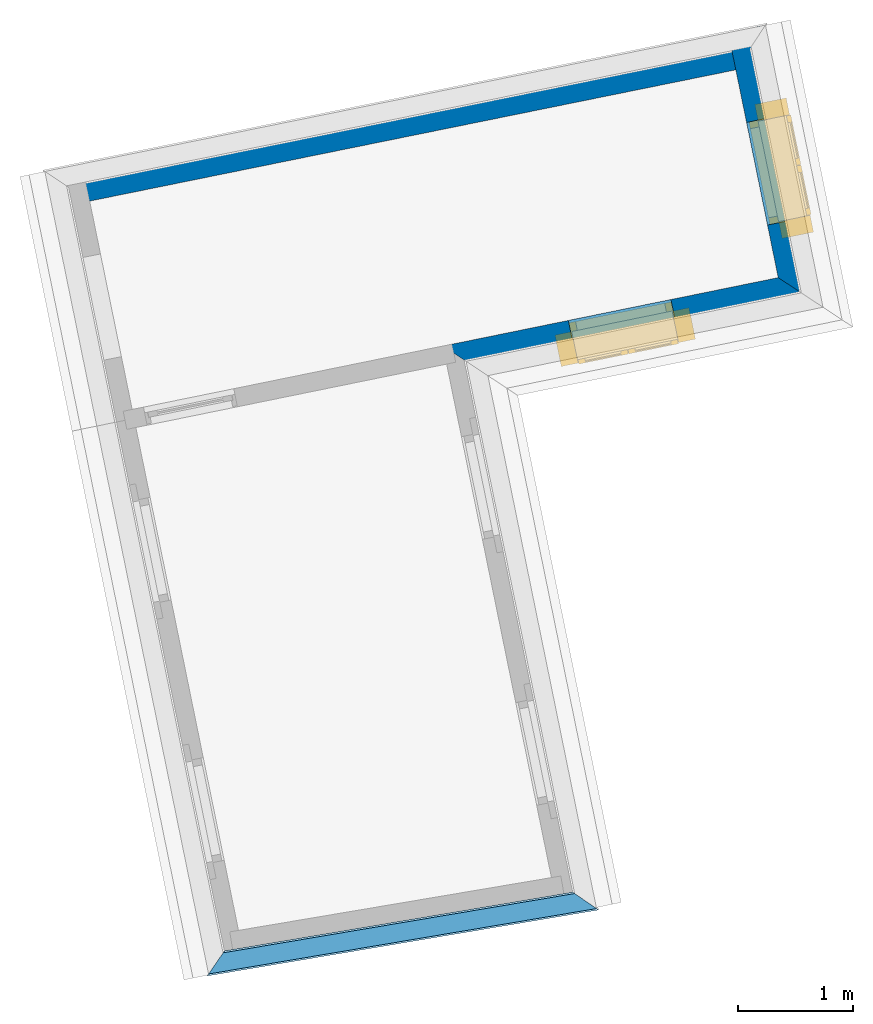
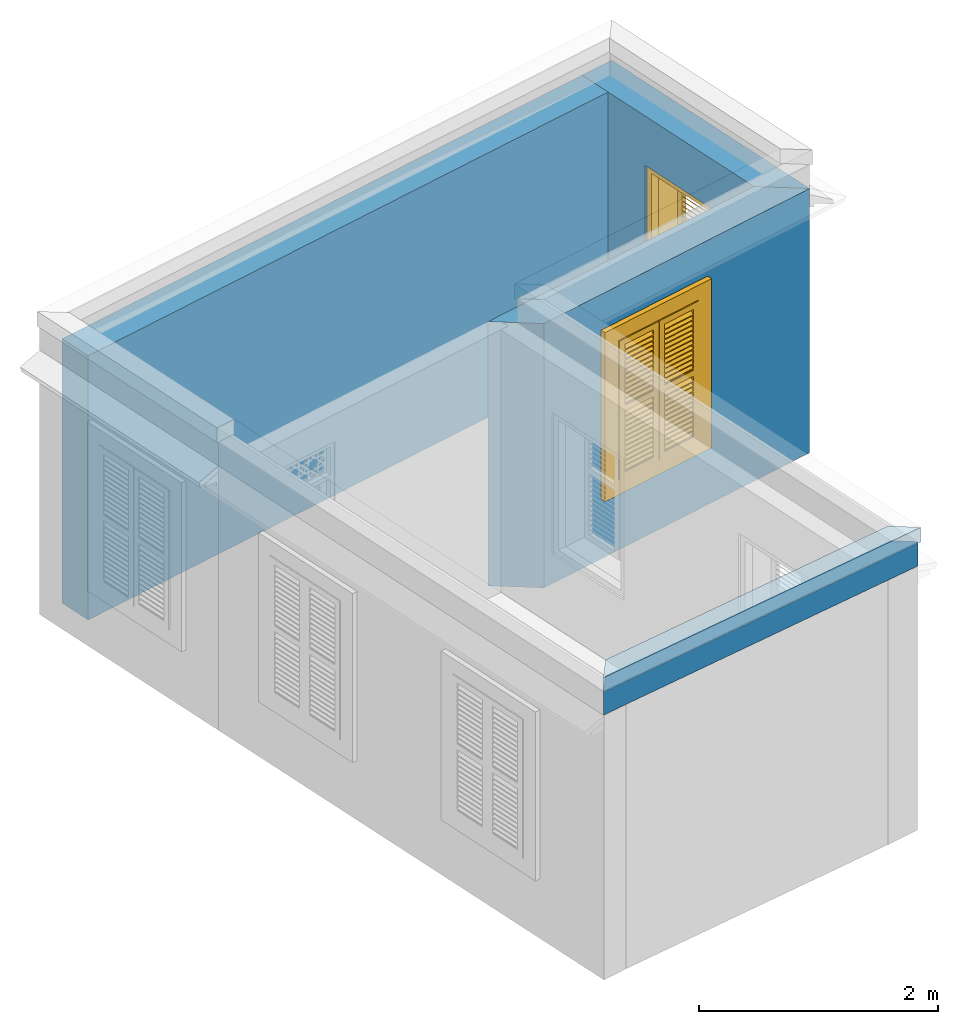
# One storey, part 4 of 5: 3 walls, 2 roofs, 2 windows, 2 openings.
"""IFC4 building model written with IfcOpenShell, lengths in metres."""

from ifc_helpers import new_model, si_unit, frame, origin, origin_with_axes, place, context, subcontext, project, spatial, polyline, outline, extrude, clip, halfspace, faceted_brep, source, transform, mapped, material, layer, layer_set, layer_usage, material_profile, profile_set, profile_usage, type_object, type_shapes, element, fill, save


model = new_model("IFC4")

# Units and contexts
model_context = context("Model", 3, world=origin_with_axes())
body_context = subcontext(model_context, "Body", "Model", "MODEL_VIEW")
ifc_project = project(units=[si_unit("PLANEANGLEUNIT", "RADIAN"), si_unit("MASSUNIT", "GRAM", prefix="KILO"), si_unit("FORCEUNIT", "NEWTON", prefix="KILO"), si_unit("LENGTHUNIT", "METRE"), si_unit("AREAUNIT", "SQUARE_METRE"), si_unit("VOLUMEUNIT", "CUBIC_METRE")], contexts=[model_context, model_context])

# Site, building, storey
site_placement = place(None, origin_with_axes())
site = spatial("IfcSite", under=ifc_project, at=site_placement, Name="Site plot-7", CompositionType="ELEMENT")
building_placement = place(None, origin_with_axes())
building = spatial("IfcBuilding", under=site, at=building_placement, Name="Building plot-7", CompositionType="ELEMENT")
storey_placement = place(None, frame((0.0, 0.0, 5.7), z_axis=(0.0, 0.0, 1.0), x_axis=(1.0, 0.0, 0.0)))
storey = spatial("IfcBuildingStorey", under=building, at=storey_placement, Name="plot-7 2", CompositionType="ELEMENT", Elevation=5.7)

# Wall, opening, window
ifc_material_1 = material(Name="Masonry")
ifc_layer_1 = layer(ifc_material_1, 0.33, ventilated=False)
ifc_layer_set_1 = layer_set([ifc_layer_1], Name="exterior_0.08_0.25")
ifc_layer_usage_1 = layer_usage(ifc_layer_set_1, "AXIS2", "POSITIVE", -0.25)
wall_type_1 = type_object("IfcWallType", Name="exterior_0.08_0.25", PredefinedType="SOLIDWALL", material=ifc_layer_set_1)
wall_1_placement = place(storey_placement, frame((-9.09509693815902, 9.59083448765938, 0.0), z_axis=(0.0, 0.0, 1.0), x_axis=(0.979807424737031, 0.199943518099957, 0.0)))
wall_1 = element("IfcWall", 1, at=wall_1_placement, inside=storey, type_object=wall_type_1, material=ifc_layer_usage_1, Name="exterior", context=body_context, shape_type="SweptSolid", body=[
    extrude(outline(polyline([(-0.0799999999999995, 0.0799999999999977), (0.25, -0.250000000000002), (3.22066143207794, -0.250000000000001), (2.89066143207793, 0.0799999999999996), (-0.0799999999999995, 0.0799999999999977)])), origin_with_axes(), (0.0, 0.0, 1.0), 2.7),
])
opening_1_placement = place(wall_1_placement, frame((1.03033071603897, 0.0, 0.75)))
opening_1 = element("IfcOpeningElement", 2, at=opening_1_placement, cuts=wall_1, Name="My Opening", ObjectType="Opening", context=body_context, shape_type="SweptSolid", body=[
    extrude(outline(polyline([(0.0, -0.269999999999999), (0.910000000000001, -0.27), (0.91, 1.1), (1.99840144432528e-15, 1.1), (0.0, -0.269999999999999)])), origin_with_axes(), (0.0, 0.0, 1.0), 1.445),
])
window_type = type_object("IfcWindowType", Name="shuttered_shorter", PartitioningType="DOUBLE_PANEL_HORIZONTAL", PredefinedType="NOTDEFINED")
shared_shape = source(origin(), body_context, "Body", "Brep", [
    faceted_brep([(0.393, 0.0, 0.622), (0.074, 0.0, 0.622), (0.074, 0.0, 0.632), (0.393, 0.0, 0.632), (0.074, -0.04, 0.592), (0.393, -0.04, 0.592), (0.393, -0.04, 0.582), (0.074, -0.04, 0.582), (0.517, 0.0, 0.682), (0.836, 0.0, 0.682), (0.836, 0.0, 0.672), (0.517, 0.0, 0.672), (0.517, -0.04, 0.642), (0.836, -0.04, 0.642), (0.836, -0.04, 0.632), (0.517, -0.04, 0.632), (0.517, 0.0, 0.632), (0.836, 0.0, 0.632), (0.836, 0.0, 0.622), (0.517, 0.0, 0.622), (0.517, -0.04, 0.592), (0.836, -0.04, 0.592), (0.836, -0.04, 0.582), (0.517, -0.04, 0.582), (0.517, 0.0, 0.232), (0.836, 0.0, 0.232), (0.836, 0.0, 0.222), (0.517, 0.0, 0.222), (0.517, -0.04, 0.192), (0.836, -0.04, 0.192), (0.836, -0.04, 0.182), (0.517, -0.04, 0.182), (0.517, 0.0, 0.532), (0.836, 0.0, 0.532), (0.836, 0.0, 0.522), (0.517, 0.0, 0.522), (0.517, -0.04, 0.492), (0.836, -0.04, 0.492), (0.836, -0.04, 0.482), (0.517, -0.04, 0.482), (0.517, 0.0, 0.482), (0.836, 0.0, 0.482), (0.836, 0.0, 0.472), (0.517, 0.0, 0.472), (0.517, -0.04, 0.442), (0.836, -0.04, 0.442), (0.836, -0.04, 0.432), (0.517, -0.04, 0.432), (0.517, 0.0, 0.582), (0.836, 0.0, 0.582), (0.836, 0.0, 0.572), (0.517, 0.0, 0.572), (0.517, -0.04, 0.542), (0.836, -0.04, 0.542), (0.836, -0.04, 0.532), (0.517, -0.04, 0.532), (0.517, 0.0, 0.182), (0.836, 0.0, 0.182), (0.836, 0.0, 0.172), (0.517, 0.0, 0.172), (0.517, -0.04, 0.142), (0.836, -0.04, 0.142), (0.836, -0.04, 0.132), (0.517, -0.04, 0.132), (0.517, 0.0, 0.382), (0.836, 0.0, 0.382), (0.836, 0.0, 0.372), (0.517, 0.0, 0.372), (0.517, -0.04, 0.342), (0.836, -0.04, 0.342), (0.836, -0.04, 0.332), (0.517, -0.04, 0.332), (0.517, 0.0, 0.432), (0.836, 0.0, 0.432), (0.836, 0.0, 0.422), (0.517, 0.0, 0.422), (0.517, -0.04, 0.392), (0.836, -0.04, 0.392), (0.836, -0.04, 0.382), (0.517, -0.04, 0.382), (0.517, 0.0, 0.132), (0.836, 0.0, 0.132), (0.836, 0.0, 0.122), (0.517, 0.0, 0.122), (0.517, -0.04, 0.092), (0.836, -0.04, 0.092), (0.836, -0.04, 0.082), (0.517, -0.04, 0.082), (0.517, 0.0, 0.282), (0.836, 0.0, 0.282), (0.836, 0.0, 0.272), (0.517, 0.0, 0.272), (0.517, -0.04, 0.242), (0.836, -0.04, 0.242), (0.836, -0.04, 0.232), (0.517, -0.04, 0.232), (0.517, 0.0, 0.332), (0.836, 0.0, 0.332), (0.836, 0.0, 0.322), (0.517, 0.0, 0.322), (0.517, -0.04, 0.292), (0.836, -0.04, 0.292), (0.836, -0.04, 0.282), (0.517, -0.04, 0.282), (0.517, 0.0, 1.362667), (0.836, 0.0, 1.362667), (0.836, 0.0, 1.352667), (0.517, 0.0, 1.352667), (0.517, -0.04, 1.322667), (0.836, -0.04, 1.322667), (0.836, -0.04, 1.312667), (0.517, -0.04, 1.312667), (0.517, 0.0, 1.312667), (0.836, 0.0, 1.312667), (0.836, 0.0, 1.302667), (0.517, 0.0, 1.302667), (0.517, -0.04, 1.272667), (0.836, -0.04, 1.272667), (0.836, -0.04, 1.262667), (0.517, -0.04, 1.262667), (0.517, 0.0, 0.912667), (0.836, 0.0, 0.912667), (0.836, 0.0, 0.902667), (0.517, 0.0, 0.902667), (0.517, -0.04, 0.872667), (0.836, -0.04, 0.872667), (0.836, -0.04, 0.862667), (0.517, -0.04, 0.862667), (0.517, 0.0, 1.212667), (0.836, 0.0, 1.212667), (0.836, 0.0, 1.202667), (0.517, 0.0, 1.202667), (0.517, -0.04, 1.172667), (0.836, -0.04, 1.172667), (0.836, -0.04, 1.162667), (0.517, -0.04, 1.162667), (0.517, 0.0, 1.162667), (0.836, 0.0, 1.162667), (0.836, 0.0, 1.152667), (0.517, 0.0, 1.152667), (0.517, -0.04, 1.122667), (0.836, -0.04, 1.122667), (0.836, -0.04, 1.112667), (0.517, -0.04, 1.112667), (0.517, 0.0, 1.262667), (0.836, 0.0, 1.262667), (0.836, 0.0, 1.252667), (0.517, 0.0, 1.252667), (0.517, -0.04, 1.222667), (0.836, -0.04, 1.222667), (0.836, -0.04, 1.212667), (0.517, -0.04, 1.212667), (0.517, 0.0, 0.862667), (0.836, 0.0, 0.862667), (0.836, 0.0, 0.852667), (0.517, 0.0, 0.852667), (0.517, -0.04, 0.822667), (0.836, -0.04, 0.822667), (0.836, -0.04, 0.812667), (0.517, -0.04, 0.812667), (0.517, 0.0, 1.062667), (0.836, 0.0, 1.062667), (0.836, 0.0, 1.052667), (0.517, 0.0, 1.052667), (0.517, -0.04, 1.022667), (0.836, -0.04, 1.022667), (0.836, -0.04, 1.012667), (0.517, -0.04, 1.012667), (0.517, 0.0, 1.112667), (0.836, 0.0, 1.112667), (0.836, 0.0, 1.102667), (0.517, 0.0, 1.102667), (0.517, -0.04, 1.072667), (0.836, -0.04, 1.072667), (0.836, -0.04, 1.062667), (0.517, -0.04, 1.062667), (0.517, 0.0, 0.812667), (0.836, 0.0, 0.812667), (0.836, 0.0, 0.802667), (0.517, 0.0, 0.802667), (0.517, -0.04, 0.772667), (0.836, -0.04, 0.772667), (0.836, -0.04, 0.762667), (0.517, -0.04, 0.762667), (0.517, 0.0, 0.962667), (0.836, 0.0, 0.962667), (0.836, 0.0, 0.952667), (0.517, 0.0, 0.952667), (0.517, -0.04, 0.922667), (0.836, -0.04, 0.922667), (0.836, -0.04, 0.912667), (0.517, -0.04, 0.912667), (0.517, 0.0, 1.012667), (0.836, 0.0, 1.012667), (0.836, 0.0, 1.002667), (0.517, 0.0, 1.002667), (0.517, -0.04, 0.972667), (0.836, -0.04, 0.972667), (0.836, -0.04, 0.962667), (0.517, -0.04, 0.962667), (0.074, 0.0, 0.682), (0.393, 0.0, 0.682), (0.393, 0.0, 0.672), (0.074, 0.0, 0.672), (0.074, -0.04, 0.642), (0.393, -0.04, 0.642), (0.393, -0.04, 0.632), (0.074, -0.04, 0.632), (0.074, 0.0, 0.232), (0.393, 0.0, 0.232), (0.393, 0.0, 0.222), (0.074, 0.0, 0.222), (0.074, -0.04, 0.192), (0.393, -0.04, 0.192), (0.393, -0.04, 0.182), (0.074, -0.04, 0.182), (0.074, 0.0, 0.532), (0.393, 0.0, 0.532), (0.393, 0.0, 0.522), (0.074, 0.0, 0.522), (0.074, -0.04, 0.492), (0.393, -0.04, 0.492), (0.393, -0.04, 0.482), (0.074, -0.04, 0.482), (0.074, 0.0, 0.482), (0.393, 0.0, 0.482), (0.393, 0.0, 0.472), (0.074, 0.0, 0.472), (0.074, -0.04, 0.442), (0.393, -0.04, 0.442), (0.393, -0.04, 0.432), (0.074, -0.04, 0.432), (0.074, 0.0, 0.582), (0.393, 0.0, 0.582), (0.393, 0.0, 0.572), (0.074, 0.0, 0.572), (0.074, -0.04, 0.542), (0.393, -0.04, 0.542), (0.393, -0.04, 0.532), (0.074, -0.04, 0.532), (0.074, 0.0, 0.182), (0.393, 0.0, 0.182), (0.393, 0.0, 0.172), (0.074, 0.0, 0.172), (0.074, -0.04, 0.142), (0.393, -0.04, 0.142), (0.393, -0.04, 0.132), (0.074, -0.04, 0.132), (0.074, 0.0, 0.382), (0.393, 0.0, 0.382), (0.393, 0.0, 0.372), (0.074, 0.0, 0.372), (0.074, -0.04, 0.342), (0.393, -0.04, 0.342), (0.393, -0.04, 0.332), (0.074, -0.04, 0.332), (0.074, 0.0, 0.432), (0.393, 0.0, 0.432), (0.393, 0.0, 0.422), (0.074, 0.0, 0.422), (0.074, -0.04, 0.392), (0.393, -0.04, 0.392), (0.393, -0.04, 0.382), (0.074, -0.04, 0.382), (0.074, 0.0, 0.132), (0.393, 0.0, 0.132), (0.393, 0.0, 0.122), (0.074, 0.0, 0.122), (0.074, -0.04, 0.092), (0.393, -0.04, 0.092), (0.393, -0.04, 0.082), (0.074, -0.04, 0.082), (0.074, 0.0, 0.282), (0.393, 0.0, 0.282), (0.393, 0.0, 0.272), (0.074, 0.0, 0.272), (0.074, -0.04, 0.242), (0.393, -0.04, 0.242), (0.393, -0.04, 0.232), (0.074, -0.04, 0.232), (0.074, 0.0, 0.332), (0.393, 0.0, 0.332), (0.393, 0.0, 0.322), (0.074, 0.0, 0.322), (0.074, -0.04, 0.292), (0.393, -0.04, 0.292), (0.393, -0.04, 0.282), (0.074, -0.04, 0.282), (0.074, 0.0, 1.362667), (0.393, 0.0, 1.362667), (0.393, 0.0, 1.352667), (0.074, 0.0, 1.352667), (0.074, -0.04, 1.322667), (0.393, -0.04, 1.322667), (0.393, -0.04, 1.312667), (0.074, -0.04, 1.312667), (0.074, 0.0, 1.312667), (0.393, 0.0, 1.312667), (0.393, 0.0, 1.302667), (0.074, 0.0, 1.302667), (0.074, -0.04, 1.272667), (0.393, -0.04, 1.272667), (0.393, -0.04, 1.262667), (0.074, -0.04, 1.262667), (0.074, 0.0, 0.912667), (0.393, 0.0, 0.912667), (0.393, 0.0, 0.902667), (0.074, 0.0, 0.902667), (0.074, -0.04, 0.872667), (0.393, -0.04, 0.872667), (0.393, -0.04, 0.862667), (0.074, -0.04, 0.862667), (0.074, 0.0, 1.212667), (0.393, 0.0, 1.212667), (0.393, 0.0, 1.202667), (0.074, 0.0, 1.202667), (0.074, -0.04, 1.172667), (0.393, -0.04, 1.172667), (0.393, -0.04, 1.162667), (0.074, -0.04, 1.162667), (0.074, 0.0, 1.162667), (0.393, 0.0, 1.162667), (0.393, 0.0, 1.152667), (0.074, 0.0, 1.152667), (0.074, -0.04, 1.122667), (0.393, -0.04, 1.122667), (0.393, -0.04, 1.112667), (0.074, -0.04, 1.112667), (0.074, 0.0, 1.262667), (0.393, 0.0, 1.262667), (0.393, 0.0, 1.252667), (0.074, 0.0, 1.252667), (0.074, -0.04, 1.222667), (0.393, -0.04, 1.222667), (0.393, -0.04, 1.212667), (0.074, -0.04, 1.212667), (0.074, 0.0, 0.862667), (0.393, 0.0, 0.862667), (0.393, 0.0, 0.852667), (0.074, 0.0, 0.852667), (0.074, -0.04, 0.822667), (0.393, -0.04, 0.822667), (0.393, -0.04, 0.812667), (0.074, -0.04, 0.812667), (0.074, 0.0, 1.062667), (0.393, 0.0, 1.062667), (0.393, 0.0, 1.052667), (0.074, 0.0, 1.052667), (0.074, -0.04, 1.022667), (0.393, -0.04, 1.022667), (0.393, -0.04, 1.012667), (0.074, -0.04, 1.012667), (0.074, 0.0, 1.112667), (0.393, 0.0, 1.112667), (0.393, 0.0, 1.102667), (0.074, 0.0, 1.102667), (0.074, -0.04, 1.072667), (0.393, -0.04, 1.072667), (0.393, -0.04, 1.062667), (0.074, -0.04, 1.062667), (0.074, 0.0, 0.812667), (0.393, 0.0, 0.812667), (0.393, 0.0, 0.802667), (0.074, 0.0, 0.802667), (0.074, -0.04, 0.772667), (0.393, -0.04, 0.772667), (0.393, -0.04, 0.762667), (0.074, -0.04, 0.762667), (0.074, 0.0, 0.962667), (0.393, 0.0, 0.962667), (0.393, 0.0, 0.952667), (0.074, 0.0, 0.952667), (0.074, -0.04, 0.922667), (0.393, -0.04, 0.922667), (0.393, -0.04, 0.912667), (0.074, -0.04, 0.912667), (0.074, 0.0, 1.012667), (0.393, 0.0, 1.012667), (0.393, 0.0, 1.002667), (0.074, 0.0, 1.002667), (0.074, -0.04, 0.972667), (0.393, -0.04, 0.972667), (0.393, -0.04, 0.962667), (0.074, -0.04, 0.962667), (0.517, -0.04, 0.072), (0.457, -0.04, 0.012), (0.896, -0.04, 0.012), (0.836, -0.04, 0.072), (0.457, -0.04, 0.692667), (0.517, -0.04, 0.692667), (0.457, 0.0, 0.012), (0.896, 0.0, 0.012), (0.836, -0.04, 0.692667), (0.896, -0.04, 0.692667), (0.836, 0.0, 0.072), (0.517, 0.0, 0.072), (0.457, 0.0, 0.692667), (0.517, 0.0, 0.692667), (0.517, -0.04, 0.752666), (0.457, -0.04, 0.752666), (0.896, 0.0, 0.692667), (0.836, 0.0, 0.692667), (0.836, -0.04, 0.752666), (0.896, -0.04, 0.752666), (0.457, 0.0, 0.752666), (0.457, -0.04, 1.433333), (0.517, -0.04, 1.373333), (0.896, 0.0, 0.752666), (0.836, -0.04, 1.373333), (0.896, -0.04, 1.433333), (0.457, 0.0, 1.433333), (0.517, 0.0, 0.752666), (0.836, 0.0, 0.752666), (0.517, 0.0, 1.373333), (0.896, 0.0, 1.433333), (0.836, 0.0, 1.373333), (0.074, -0.04, 0.072), (0.014, -0.04, 0.012), (0.453, -0.04, 0.012), (0.393, -0.04, 0.072), (0.014, -0.04, 0.692667), (0.074, -0.04, 0.692667), (0.014, 0.0, 0.012), (0.453, 0.0, 0.012), (0.393, -0.04, 0.692667), (0.453, -0.04, 0.692667), (0.393, 0.0, 0.072), (0.074, 0.0, 0.072), (0.014, 0.0, 0.692667), (0.074, 0.0, 0.692667), (0.074, -0.04, 0.752666), (0.014, -0.04, 0.752666), (0.453, 0.0, 0.692667), (0.393, 0.0, 0.692667), (0.393, -0.04, 0.752666), (0.453, -0.04, 0.752666), (0.014, 0.0, 0.752666), (0.014, -0.04, 1.433333), (0.074, -0.04, 1.373333), (0.453, 0.0, 0.752666), (0.393, -0.04, 1.373333), (0.453, -0.04, 1.433333), (0.014, 0.0, 1.433333), (0.074, 0.0, 0.752666), (0.393, 0.0, 0.752666), (0.074, 0.0, 1.373333), (0.453, 0.0, 1.433333), (0.393, 0.0, 1.373333), (0.0, 0.33, 1.445), (0.91, 0.33, 1.445), (0.85, 0.33, 1.385), (0.06, 0.33, 1.385), (0.91, 0.25, 1.445), (0.0, 0.25, 1.445), (0.91, 0.25, 1.445), (0.85, 0.33, 0.06), (0.91, 0.33, 0.0), (0.85, 0.25, 1.385), (0.06, 0.25, 1.385), (0.0, 0.33, 0.0), (0.06, 0.33, 0.06), (0.0, 0.25, 0.0), (0.91, 0.25, 0.0), (0.85, 0.25, 0.06), (0.06, 0.25, 0.06), (1.05, 0.25, 1.585), (-0.14, 0.25, 1.585), (-0.14, -0.03, 1.585), (1.05, -0.03, 1.585), (0.9, -0.03, 1.435), (0.01, -0.03, 1.435), (0.01, 0.25, 1.435), (0.9, 0.25, 1.435), (0.9, 0.25, 0.01), (0.9, -0.03, 0.01), (1.05, -0.03, -0.14), (1.05, 0.25, -0.14), (0.01, -0.03, 0.01), (0.01, 0.25, 0.01), (-0.14, -0.03, -0.14), (-0.14, 0.25, -0.14)], [[[0, 1, 2, 3]], [[4, 5, 3, 2]], [[5, 6, 0, 3]], [[1, 0, 6, 7]], [[2, 1, 7, 4]], [[5, 4, 7, 6]], [[8, 9, 10, 11]], [[12, 13, 9, 8]], [[13, 14, 10, 9]], [[14, 15, 11, 10]], [[15, 12, 8, 11]], [[13, 12, 15, 14]], [[16, 17, 18, 19]], [[20, 21, 17, 16]], [[21, 22, 18, 17]], [[22, 23, 19, 18]], [[23, 20, 16, 19]], [[21, 20, 23, 22]], [[24, 25, 26, 27]], [[28, 29, 25, 24]], [[29, 30, 26, 25]], [[30, 31, 27, 26]], [[31, 28, 24, 27]], [[29, 28, 31, 30]], [[32, 33, 34, 35]], [[36, 37, 33, 32]], [[37, 38, 34, 33]], [[38, 39, 35, 34]], [[39, 36, 32, 35]], [[37, 36, 39, 38]], [[40, 41, 42, 43]], [[44, 45, 41, 40]], [[45, 46, 42, 41]], [[46, 47, 43, 42]], [[47, 44, 40, 43]], [[45, 44, 47, 46]], [[48, 49, 50, 51]], [[52, 53, 49, 48]], [[53, 54, 50, 49]], [[54, 55, 51, 50]], [[55, 52, 48, 51]], [[53, 52, 55, 54]], [[56, 57, 58, 59]], [[60, 61, 57, 56]], [[61, 62, 58, 57]], [[62, 63, 59, 58]], [[63, 60, 56, 59]], [[61, 60, 63, 62]], [[64, 65, 66, 67]], [[68, 69, 65, 64]], [[69, 70, 66, 65]], [[70, 71, 67, 66]], [[71, 68, 64, 67]], [[69, 68, 71, 70]], [[72, 73, 74, 75]], [[76, 77, 73, 72]], [[77, 78, 74, 73]], [[78, 79, 75, 74]], [[79, 76, 72, 75]], [[77, 76, 79, 78]], [[80, 81, 82, 83]], [[84, 85, 81, 80]], [[85, 86, 82, 81]], [[86, 87, 83, 82]], [[87, 84, 80, 83]], [[85, 84, 87, 86]], [[88, 89, 90, 91]], [[92, 93, 89, 88]], [[93, 94, 90, 89]], [[94, 95, 91, 90]], [[95, 92, 88, 91]], [[93, 92, 95, 94]], [[96, 97, 98, 99]], [[100, 101, 97, 96]], [[101, 102, 98, 97]], [[102, 103, 99, 98]], [[103, 100, 96, 99]], [[101, 100, 103, 102]], [[104, 105, 106, 107]], [[108, 109, 105, 104]], [[109, 110, 106, 105]], [[110, 111, 107, 106]], [[111, 108, 104, 107]], [[109, 108, 111, 110]], [[112, 113, 114, 115]], [[116, 117, 113, 112]], [[117, 118, 114, 113]], [[118, 119, 115, 114]], [[119, 116, 112, 115]], [[117, 116, 119, 118]], [[120, 121, 122, 123]], [[124, 125, 121, 120]], [[125, 126, 122, 121]], [[126, 127, 123, 122]], [[127, 124, 120, 123]], [[125, 124, 127, 126]], [[128, 129, 130, 131]], [[132, 133, 129, 128]], [[133, 134, 130, 129]], [[134, 135, 131, 130]], [[135, 132, 128, 131]], [[133, 132, 135, 134]], [[136, 137, 138, 139]], [[140, 141, 137, 136]], [[141, 142, 138, 137]], [[142, 143, 139, 138]], [[139, 143, 140, 136]], [[141, 140, 143, 142]], [[144, 145, 146, 147]], [[148, 149, 145, 144]], [[149, 150, 146, 145]], [[150, 151, 147, 146]], [[151, 148, 144, 147]], [[149, 148, 151, 150]], [[152, 153, 154, 155]], [[156, 157, 153, 152]], [[157, 158, 154, 153]], [[158, 159, 155, 154]], [[159, 156, 152, 155]], [[157, 156, 159, 158]], [[160, 161, 162, 163]], [[164, 165, 161, 160]], [[165, 166, 162, 161]], [[166, 167, 163, 162]], [[167, 164, 160, 163]], [[165, 164, 167, 166]], [[168, 169, 170, 171]], [[172, 173, 169, 168]], [[173, 174, 170, 169]], [[174, 175, 171, 170]], [[175, 172, 168, 171]], [[173, 172, 175, 174]], [[176, 177, 178, 179]], [[180, 181, 177, 176]], [[181, 182, 178, 177]], [[182, 183, 179, 178]], [[183, 180, 176, 179]], [[181, 180, 183, 182]], [[184, 185, 186, 187]], [[188, 189, 185, 184]], [[189, 190, 186, 185]], [[190, 191, 187, 186]], [[191, 188, 184, 187]], [[189, 188, 191, 190]], [[192, 193, 194, 195]], [[196, 197, 193, 192]], [[197, 198, 194, 193]], [[198, 199, 195, 194]], [[199, 196, 192, 195]], [[197, 196, 199, 198]], [[200, 201, 202, 203]], [[204, 205, 201, 200]], [[205, 206, 202, 201]], [[206, 207, 203, 202]], [[207, 204, 200, 203]], [[205, 204, 207, 206]], [[208, 209, 210, 211]], [[212, 213, 209, 208]], [[213, 214, 210, 209]], [[214, 215, 211, 210]], [[215, 212, 208, 211]], [[213, 212, 215, 214]], [[216, 217, 218, 219]], [[220, 221, 217, 216]], [[221, 222, 218, 217]], [[222, 223, 219, 218]], [[223, 220, 216, 219]], [[221, 220, 223, 222]], [[224, 225, 226, 227]], [[228, 229, 225, 224]], [[229, 230, 226, 225]], [[230, 231, 227, 226]], [[231, 228, 224, 227]], [[229, 228, 231, 230]], [[232, 233, 234, 235]], [[236, 237, 233, 232]], [[237, 238, 234, 233]], [[238, 239, 235, 234]], [[239, 236, 232, 235]], [[237, 236, 239, 238]], [[240, 241, 242, 243]], [[244, 245, 241, 240]], [[245, 246, 242, 241]], [[246, 247, 243, 242]], [[247, 244, 240, 243]], [[245, 244, 247, 246]], [[248, 249, 250, 251]], [[252, 253, 249, 248]], [[253, 254, 250, 249]], [[254, 255, 251, 250]], [[255, 252, 248, 251]], [[253, 252, 255, 254]], [[256, 257, 258, 259]], [[260, 261, 257, 256]], [[261, 262, 258, 257]], [[262, 263, 259, 258]], [[263, 260, 256, 259]], [[261, 260, 263, 262]], [[264, 265, 266, 267]], [[268, 269, 265, 264]], [[269, 270, 266, 265]], [[270, 271, 267, 266]], [[271, 268, 264, 267]], [[269, 268, 271, 270]], [[272, 273, 274, 275]], [[276, 277, 273, 272]], [[277, 278, 274, 273]], [[278, 279, 275, 274]], [[279, 276, 272, 275]], [[277, 276, 279, 278]], [[280, 281, 282, 283]], [[284, 285, 281, 280]], [[285, 286, 282, 281]], [[286, 287, 283, 282]], [[287, 284, 280, 283]], [[285, 284, 287, 286]], [[288, 289, 290, 291]], [[292, 293, 289, 288]], [[293, 294, 290, 289]], [[294, 295, 291, 290]], [[295, 292, 288, 291]], [[293, 292, 295, 294]], [[296, 297, 298, 299]], [[300, 301, 297, 296]], [[301, 302, 298, 297]], [[302, 303, 299, 298]], [[303, 300, 296, 299]], [[301, 300, 303, 302]], [[304, 305, 306, 307]], [[308, 309, 305, 304]], [[309, 310, 306, 305]], [[310, 311, 307, 306]], [[311, 308, 304, 307]], [[309, 308, 311, 310]], [[312, 313, 314, 315]], [[316, 317, 313, 312]], [[317, 318, 314, 313]], [[318, 319, 315, 314]], [[319, 316, 312, 315]], [[317, 316, 319, 318]], [[320, 321, 322, 323]], [[324, 325, 321, 320]], [[325, 326, 322, 321]], [[326, 327, 323, 322]], [[327, 324, 320, 323]], [[325, 324, 327, 326]], [[328, 329, 330, 331]], [[332, 333, 329, 328]], [[333, 334, 330, 329]], [[334, 335, 331, 330]], [[335, 332, 328, 331]], [[333, 332, 335, 334]], [[336, 337, 338, 339]], [[340, 341, 337, 336]], [[341, 342, 338, 337]], [[342, 343, 339, 338]], [[343, 340, 336, 339]], [[341, 340, 343, 342]], [[344, 345, 346, 347]], [[348, 349, 345, 344]], [[349, 350, 346, 345]], [[350, 351, 347, 346]], [[351, 348, 344, 347]], [[349, 348, 351, 350]], [[352, 353, 354, 355]], [[356, 357, 353, 352]], [[357, 358, 354, 353]], [[358, 359, 355, 354]], [[359, 356, 352, 355]], [[357, 356, 359, 358]], [[360, 361, 362, 363]], [[364, 365, 361, 360]], [[365, 366, 362, 361]], [[366, 367, 363, 362]], [[367, 364, 360, 363]], [[365, 364, 367, 366]], [[368, 369, 370, 371]], [[372, 373, 369, 368]], [[373, 374, 370, 369]], [[374, 375, 371, 370]], [[375, 372, 368, 371]], [[373, 372, 375, 374]], [[376, 377, 378, 379]], [[380, 381, 377, 376]], [[381, 382, 378, 377]], [[382, 383, 379, 378]], [[383, 380, 376, 379]], [[381, 380, 383, 382]], [[384, 385, 386, 387]], [[388, 385, 384, 389]], [[390, 391, 386, 385]], [[392, 387, 386, 393]], [[384, 387, 394, 395]], [[390, 385, 388, 396]], [[389, 384, 395, 397]], [[389, 398, 399, 388]], [[390, 395, 394, 391]], [[400, 393, 386, 391]], [[387, 392, 401, 394]], [[402, 392, 393, 403]], [[396, 388, 399, 404]], [[390, 396, 397, 395]], [[392, 389, 397, 401]], [[398, 389, 392, 402]], [[405, 399, 398, 406]], [[394, 401, 400, 391]], [[407, 403, 393, 400]], [[408, 402, 403, 409]], [[404, 399, 405, 410]], [[411, 397, 396, 404]], [[397, 411, 412, 401]], [[398, 402, 412, 411]], [[406, 398, 411, 413]], [[405, 406, 408, 409]], [[401, 412, 407, 400]], [[414, 409, 403, 407]], [[402, 408, 415, 412]], [[405, 409, 414, 410]], [[404, 410, 413, 411]], [[408, 406, 413, 415]], [[412, 415, 414, 407]], [[413, 410, 414, 415]], [[416, 417, 418, 419]], [[420, 417, 416, 421]], [[422, 423, 418, 417]], [[424, 419, 418, 425]], [[416, 419, 426, 427]], [[422, 417, 420, 428]], [[421, 416, 427, 429]], [[421, 430, 431, 420]], [[422, 427, 426, 423]], [[432, 425, 418, 423]], [[419, 424, 433, 426]], [[434, 424, 425, 435]], [[428, 420, 431, 436]], [[422, 428, 429, 427]], [[424, 421, 429, 433]], [[430, 421, 424, 434]], [[437, 431, 430, 438]], [[426, 433, 432, 423]], [[439, 435, 425, 432]], [[440, 434, 435, 441]], [[436, 431, 437, 442]], [[443, 429, 428, 436]], [[429, 443, 444, 433]], [[430, 434, 444, 443]], [[438, 430, 443, 445]], [[437, 438, 440, 441]], [[433, 444, 439, 432]], [[446, 441, 435, 439]], [[434, 440, 447, 444]], [[437, 441, 446, 442]], [[436, 442, 445, 443]], [[440, 438, 445, 447]], [[444, 447, 446, 439]], [[445, 442, 446, 447]], [[448, 449, 450, 451]], [[452, 449, 448]], [[448, 453, 454]], [[448, 454, 452]], [[455, 450, 449, 456]], [[451, 450, 457, 458]], [[459, 448, 451, 460]], [[448, 459, 461, 453]], [[454, 453, 458, 457]], [[462, 452, 454]], [[454, 457, 463]], [[454, 463, 462]], [[456, 449, 452, 462]], [[450, 455, 463, 457]], [[456, 459, 460, 455]], [[460, 451, 458, 464]], [[459, 456, 462, 461]], [[464, 458, 453, 461]], [[461, 462, 463, 464]], [[455, 460, 464, 463]], [[465, 466, 467, 468]], [[469, 470, 471, 472]], [[473, 474, 469, 472]], [[465, 468, 475, 476]], [[470, 477, 478, 471]], [[474, 473, 478, 477]], [[474, 477, 479, 475]], [[470, 467, 479, 477]], [[470, 469, 468, 467]], [[474, 475, 468, 469]], [[471, 478, 480, 466]], [[473, 472, 465, 476]], [[473, 476, 480, 478]], [[466, 465, 472, 471]], [[480, 476, 475, 479]], [[480, 479, 467, 466]]]),
])
type_shapes(window_type, [shared_shape])
window_1_placement = place(storey_placement, frame((-8.03158650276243, 9.53229443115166, 0.75), z_axis=(0.0, 0.0, 1.0), x_axis=(0.891624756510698, 0.18194860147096, 0.0)))
window_1 = element("IfcWindow", 3, at=window_1_placement, inside=storey, type_object=window_type, Name="circulation sahn window", OverallHeight=1.445, OverallWidth=0.91, context=body_context, shape_type="MappedRepresentation", body=[
    mapped(shared_shape, transform((0.0, 0.0, 0.0), scale=1.0)),
])
fill(opening_1, window_1)

wall_2_placement = place(storey_placement, frame((-6.18442081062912, 10.1847989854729, 0.0), z_axis=(0.0, 0.0, 1.0), x_axis=(-0.199943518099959, 0.97980742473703, 0.0)))
wall_2 = element("IfcWall", 4, at=wall_2_placement, inside=storey, type_object=wall_type_1, material=ifc_layer_usage_1, Name="exterior", context=body_context, shape_type="SweptSolid", body=[
    extrude(outline(polyline([(0.0799999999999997, 0.0799999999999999), (-0.250000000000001, -0.25), (2.25063364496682, -0.249999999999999), (2.25063364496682, 0.0800000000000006), (0.0799999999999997, 0.0799999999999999)])), origin_with_axes(), (0.0, 0.0, 1.0), 2.7),
])
opening_2_placement = place(wall_2_placement, frame((0.545316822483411, 0.0, 0.75)))
opening_2 = element("IfcOpeningElement", 5, at=opening_2_placement, cuts=wall_2, Name="My Opening", ObjectType="Opening", context=body_context, shape_type="SweptSolid", body=[
    extrude(outline(polyline([(0.0, -0.27), (0.91, -0.27), (0.909999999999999, 1.1), (-1.33226762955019e-15, 1.1), (0.0, -0.27)])), origin_with_axes(), (0.0, 0.0, 1.0), 1.445),
])
window_2_placement = place(storey_placement, frame((-6.02890536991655, 10.7730892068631, 0.75), z_axis=(0.0, 0.0, 1.0), x_axis=(-0.181948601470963, 0.891624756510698, 0.0)))
window_2 = element("IfcWindow", 6, at=window_2_placement, inside=storey, type_object=window_type, Name="circulation outside window", OverallHeight=1.445, OverallWidth=0.91, context=body_context, shape_type="MappedRepresentation", body=[
    mapped(shared_shape, transform((0.0, 0.0, 0.0), scale=1.0)),
])
fill(opening_2, window_2)

# Wall
ifc_material_2 = material(Name="Masonry")
ifc_layer_2 = layer(ifc_material_2, 0.33, ventilated=False)
ifc_layer_set_2 = layer_set([ifc_layer_2], Name="party_0.08_0.25")
ifc_layer_usage_2 = layer_usage(ifc_layer_set_2, "AXIS2", "POSITIVE", -0.25)
wall_type_2 = type_object("IfcWallType", Name="party_0.08_0.25", PredefinedType="SOLIDWALL", material=ifc_layer_set_2)
wall_3_placement = place(storey_placement, frame((-6.58443454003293, 12.1450346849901, 0.0), z_axis=(0.0, 0.0, 1.0), x_axis=(-0.979990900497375, -0.199042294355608, 0.0)))
element("IfcWall", 7, at=wall_3_placement, inside=storey, type_object=wall_type_2, material=ifc_layer_usage_2, Name="party", context=body_context, shape_type="SweptSolid", body=[
    extrude(outline(polyline([(-8.57500351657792e-17, 0.0800000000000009), (-4.28781124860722e-16, -0.25), (5.88492642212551, -0.25), (5.88492642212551, 0.0800000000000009), (-8.57500351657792e-17, 0.0800000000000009)])), origin_with_axes(), (0.0, 0.0, 1.0), 2.7),
])

# Roofs
ifc_material_profile_1 = material_profile(None, outline(polyline([(0.25, 0.0), (0.25, 0.245), (0.09, 0.245), (0.09, 0.0), (0.25, 0.0)])))
ifc_profile_set_1 = profile_set([ifc_material_profile_1])
ifc_profile_usage_1 = profile_usage(ifc_profile_set_1)
roof_type_1 = type_object("IfcRoofType", Name="roofline_0", PredefinedType="FREEFORM", material=ifc_profile_set_1)
roof_1_placement = place(storey_placement, frame((-7.16657655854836, 5.13875503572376, 2.7), z_axis=(-0.986076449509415, -0.166292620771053, 0.0), x_axis=(0.166292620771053, -0.986076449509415, 0.0)))
element("IfcRoof", 8, at=roof_1_placement, inside=storey, type_object=roof_type_1, material=ifc_profile_usage_1, Name="roofline_0", context=body_context, shape_type="Clipping", body=[
    clip(clip(extrude(outline(polyline([(0.25, 0.0), (0.25, 0.245), (0.09, 0.245), (0.09, 0.0), (0.25, 0.0)])), origin_with_axes(), (0.0, 0.0, 1.0), 4.91597079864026), halfspace(frame((0.0, 0.0, 3.91597079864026), z_axis=(0.694901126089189, 0.0, -0.71910529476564), x_axis=(0.0, 1.0, 0.0)), True)), halfspace(frame((0.0, 0.0, 1.0), z_axis=(-0.719105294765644, 0.0, -0.694901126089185), x_axis=(0.0, 1.0, 0.0)), False)),
])
ifc_material_profile_2 = material_profile(None, outline(polyline([(0.265, 0.245), (0.265, 0.395), (0.075, 0.395), (0.075, 0.245), (0.265, 0.245)])))
ifc_profile_set_2 = profile_set([ifc_material_profile_2])
ifc_profile_usage_2 = profile_usage(ifc_profile_set_2)
roof_type_2 = type_object("IfcRoofType", Name="roofline_1", PredefinedType="FREEFORM", material=ifc_profile_set_2)
roof_2_placement = place(storey_placement, frame((-7.16657655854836, 5.13875503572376, 2.7), z_axis=(-0.986076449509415, -0.166292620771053, 0.0), x_axis=(0.166292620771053, -0.986076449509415, 0.0)))
element("IfcRoof", 9, at=roof_2_placement, inside=storey, type_object=roof_type_2, material=ifc_profile_usage_2, Name="roofline_1", context=body_context, shape_type="Clipping", body=[
    clip(clip(extrude(outline(polyline([(0.265, 0.245), (0.265, 0.395), (0.075, 0.395), (0.075, 0.245), (0.265, 0.245)])), origin_with_axes(), (0.0, 0.0, 1.0), 4.91597079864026), halfspace(frame((0.0, 0.0, 3.91597079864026), z_axis=(0.694901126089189, 0.0, -0.71910529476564), x_axis=(0.0, 1.0, 0.0)), True)), halfspace(frame((0.0, 0.0, 1.0), z_axis=(-0.719105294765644, 0.0, -0.694901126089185), x_axis=(0.0, 1.0, 0.0)), False)),
])

save(model, "model.ifc")
